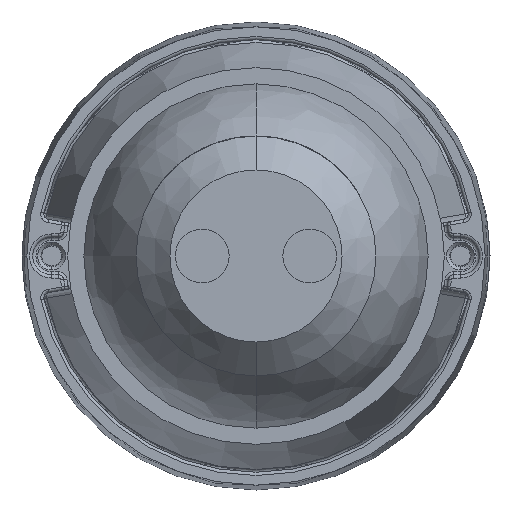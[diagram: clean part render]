
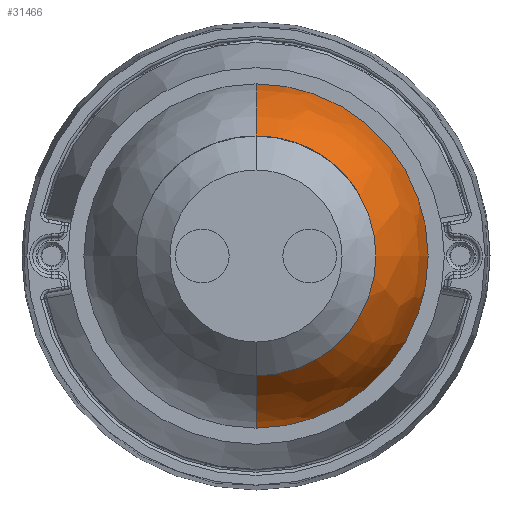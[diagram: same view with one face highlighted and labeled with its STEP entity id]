
A CAD part, front view. The second image highlights one B-rep face of the part: STEP entity #31466.
In plain terms, the highlighted free-form (B-spline) face has degree [3, 3] with [7, 4] control points.
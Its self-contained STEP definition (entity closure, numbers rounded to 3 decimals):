
#11797=CARTESIAN_POINT('',(-250.,15.661,7.112));
#11798=DIRECTION('',(-1.,0.,0.));
#11799=DIRECTION('',(0.,-0.102,-0.995));
#11800=AXIS2_PLACEMENT_3D('',#11797,#11798,#11799);
#25468=CARTESIAN_POINT('',(-250.,13.3,0.));
#25469=DIRECTION('',(0.,1.,0.));
#25470=DIRECTION('',(0.,0.,1.));
#25471=AXIS2_PLACEMENT_3D('',#25468,#25469,#25470);
#28600=CARTESIAN_POINT('',(-250.,1.3,0.));
#28601=DIRECTION('',(0.,1.,0.));
#28602=DIRECTION('',(0.,0.,1.));
#28603=AXIS2_PLACEMENT_3D('',#28600,#28601,#28602);
#28605=CARTESIAN_POINT('',(-250.,15.661,-7.112));
#28606=DIRECTION('',(1.,0.,0.));
#28607=DIRECTION('',(0.,-0.102,0.995));
#28608=AXIS2_PLACEMENT_3D('',#28605,#28606,#28607);
#29486=CARTESIAN_POINT('',(-250.,13.3,16.));
#29487=CARTESIAN_POINT('',(-250.,13.3,-16.));
#29488=VERTEX_POINT('',#29486);
#29489=VERTEX_POINT('',#29487);
#29580=CARTESIAN_POINT('',(-250.,1.3,-11.15));
#29582=VERTEX_POINT('',#29580);
#29732=CARTESIAN_POINT('',(-250.,1.3,11.15));
#29733=VERTEX_POINT('',#29732);
#31431=CARTESIAN_POINT('',(-250.69,1.095,
10.965));
#31432=CARTESIAN_POINT('',(-250.871,4.689,
13.852));
#31433=CARTESIAN_POINT('',(-250.98,8.966,
15.577));
#31434=CARTESIAN_POINT('',(-251.006,13.561,
15.994));
#31435=CARTESIAN_POINT('',(-243.942,1.095,
11.39));
#31436=CARTESIAN_POINT('',(-242.347,4.689,
14.388));
#31437=CARTESIAN_POINT('',(-241.394,8.966,
16.18));
#31438=CARTESIAN_POINT('',(-241.164,13.561,
16.613));
#31439=CARTESIAN_POINT('',(-239.013,1.095,
6.761));
#31440=CARTESIAN_POINT('',(-236.121,4.689,
8.541));
#31441=CARTESIAN_POINT('',(-234.392,8.966,
9.605));
#31442=CARTESIAN_POINT('',(-233.975,13.561,
9.862));
#31443=CARTESIAN_POINT('',(-239.013,1.095,
0.));
#31444=CARTESIAN_POINT('',(-236.121,4.689,
0.));
#31445=CARTESIAN_POINT('',(-234.392,8.966,
0.));
#31446=CARTESIAN_POINT('',(-233.975,13.561,
0.));
#31447=CARTESIAN_POINT('',(-239.013,1.095,
-6.761));
#31448=CARTESIAN_POINT('',(-236.121,4.689,
-8.541));
#31449=CARTESIAN_POINT('',(-234.392,8.966,
-9.605));
#31450=CARTESIAN_POINT('',(-233.975,13.561,
-9.862));
#31451=CARTESIAN_POINT('',(-243.942,1.095,
-11.39));
#31452=CARTESIAN_POINT('',(-242.347,4.689,
-14.388));
#31453=CARTESIAN_POINT('',(-241.394,8.966,
-16.18));
#31454=CARTESIAN_POINT('',(-241.164,13.561,
-16.613));
#31455=CARTESIAN_POINT('',(-250.69,1.095,
-10.965));
#31456=CARTESIAN_POINT('',(-250.871,4.689,
-13.852));
#31457=CARTESIAN_POINT('',(-250.98,8.966,
-15.577));
#31458=CARTESIAN_POINT('',(-251.006,13.561,
-15.994));
#31459=(BOUNDED_SURFACE()B_SPLINE_SURFACE(3,3,((#31431,#31432,#31433,#31434),(
#31435,#31436,#31437,#31438),(#31439,#31440,#31441,#31442),(#31443,#31444,
#31445,#31446),(#31447,#31448,#31449,#31450),(#31451,#31452,#31453,#31454),(
#31455,#31456,#31457,#31458)),.UNSPECIFIED.,.F.,.F.,.F.)B_SPLINE_SURFACE_WITH_KNOTS((4,3,4),(4,4),(0.,1.,2.),(0.,1.),.UNSPECIFIED.)GEOMETRIC_REPRESENTATION_ITEM()RATIONAL_B_SPLINE_SURFACE(((1.213,1.179,
1.179,1.213),(0.958,0.931,
0.931,0.958),(0.958,0.931,
0.931,0.958),(1.213,1.179,
1.179,1.213),(0.958,0.931,
0.931,0.958),(0.958,0.931,
0.931,0.958),(1.213,1.179,
1.179,1.213)))REPRESENTATION_ITEM('')SURFACE());
#31460=ORIENTED_EDGE('',*,*,#30827,.F.);
#31461=ORIENTED_EDGE('',*,*,#30650,.F.);
#31462=ORIENTED_EDGE('',*,*,#31292,.T.);
#31463=ORIENTED_EDGE('',*,*,#30646,.T.);
#31464=EDGE_LOOP('',(#31460,#31461,#31462,#31463));
#31465=FACE_OUTER_BOUND('',#31464,.F.);
#31466=ADVANCED_FACE('',(#31465),#31459,.T.);
#11801=CIRCLE('',#11800,23.232);
#25472=CIRCLE('',#25471,16.);
#28604=CIRCLE('',#28603,11.15);
#28609=CIRCLE('',#28608,23.232);
#30646=EDGE_CURVE('',#29489,#29582,#11801,.T.);
#30650=EDGE_CURVE('',#29488,#29733,#28609,.T.);
#30827=EDGE_CURVE('',#29733,#29582,#28604,.T.);
#31292=EDGE_CURVE('',#29488,#29489,#25472,.T.);
